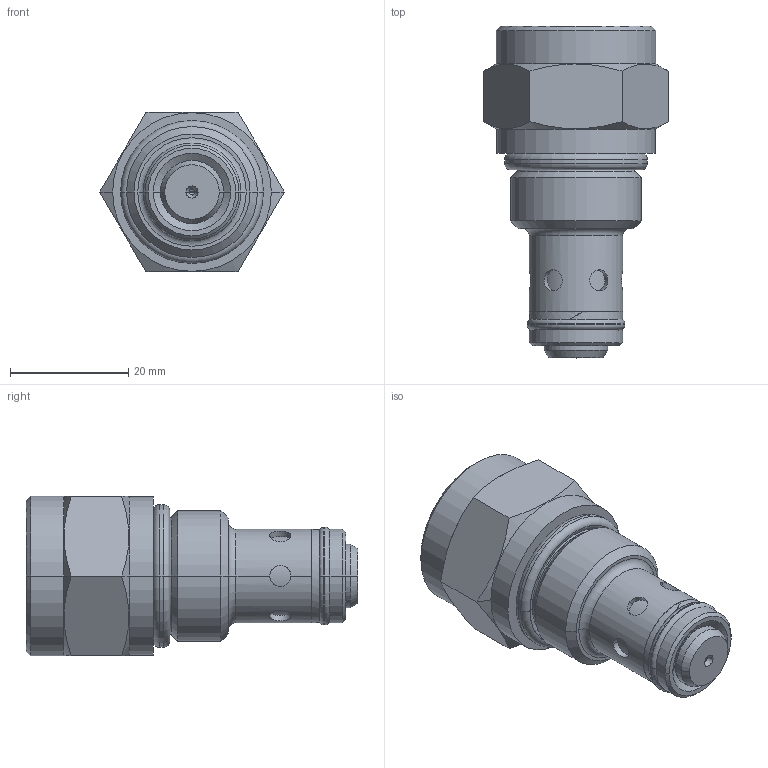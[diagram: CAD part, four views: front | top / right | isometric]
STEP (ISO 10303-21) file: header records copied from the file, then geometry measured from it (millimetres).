
FILE_DESCRIPTION((''),'2;1');
FILE_NAME('CVRP-10-_-_-OUT','2015-09-03T',('torrese'),(''),'PRO/ENGINEER BY PARAMETRIC TECHNOLOGY CORPORATION, 2015070','PRO/ENGINEER BY PARAMETRIC TECHNOLOGY CORPORATION, 2015070','');
FILE_SCHEMA(('CONFIG_CONTROL_DESIGN','GEOMETRIC_VALIDATION_PROPERTIES_MIM'));
Length unit declared in the file: inch
Products named in the file (1): CVRP-10-_-_-OUT
Bounding box: 31.15 x 56.02 x 26.97 mm (x, y, z)
Volume: 21691.9 mm3; surface area: 5398.6 mm2
Topology: 1 solids, 1 shells, 100 faces, 212 edges, 125 vertices
Faces by surface type: cylinder 45, cone 22, plane 19, torus 14
Entity records: 6797 total; most frequent: CARTESIAN_POINT 3351, DIRECTION 465, ORIENTED_EDGE 420, PRESENTATION_STYLE_ASSIGNMENT 284, STYLED_ITEM 213, CURVE_STYLE 210, EDGE_CURVE 210, AXIS2_PLACEMENT_3D 197
